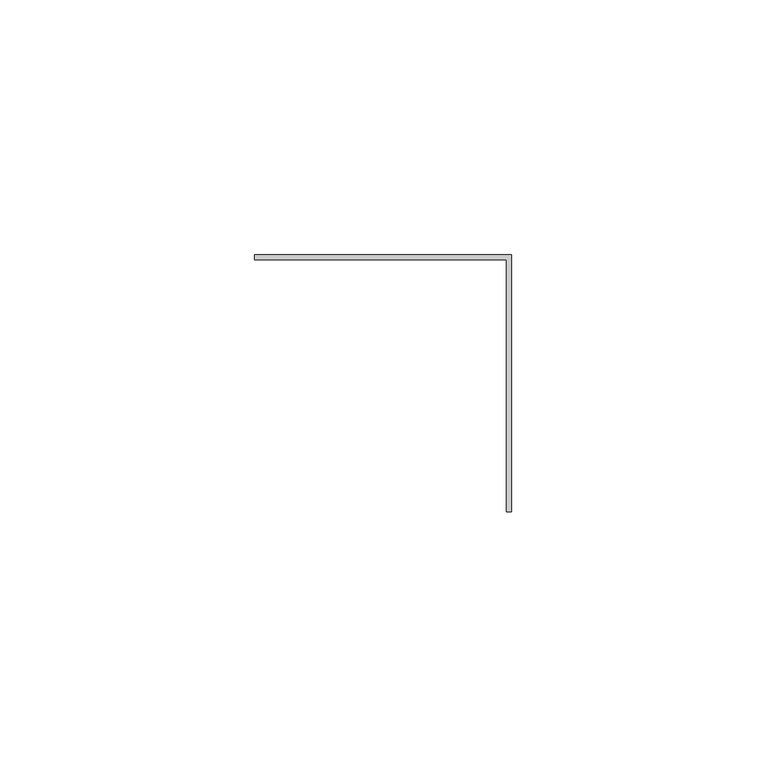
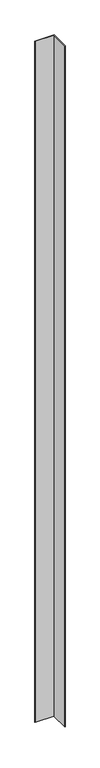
"""IFC4 building model written with IfcOpenShell, lengths in millimetres: member geometry, Meneau d'angle en L : ATELIERS 3S_Angle sortant."""

from ifc_helpers import new_model, si_unit, frame, origin, place, context, project, spatial, polyline, outline, extrude, source, transform, mapped, element, save


def member_5640643a(model_context):
    return source(origin(), model_context, "Body", "SweptSolid", [
        extrude(outline(polyline([(37.5, -12.0), (37.5, 37.5), (-12.0, 37.5), (-12.0, 38.5), (38.5, 38.5), (38.5, -12.0), (37.5, -12.0)])), frame((0.0, 0.0, -1900.0), z_axis=(0.0, 0.0, 1.0), x_axis=(1.0, 0.0, 0.0)), (0.0, 0.0, 1.0), 1900.0),
    ])


if __name__ == "__main__":
    model = new_model("IFC4")
    model_context = context("Model", 3, world=origin())
    ifc_project = project(units=[si_unit("LENGTHUNIT", "METRE", prefix="MILLI")], contexts=[model_context])
    site = spatial("IfcSite", under=ifc_project)
    building = spatial("IfcBuilding", under=site)
    placement = place(None, origin())
    member_shape = member_5640643a(model_context)
    element("IfcMember", 1, ObjectType="Meneau d'angle en L : ATELIERS 3S_Angle sortant", at=placement, inside=building, context=model_context, shape_type="MappedRepresentation", body=[
        mapped(member_shape, transform((0.0, 0.0, 0.0), x_axis=(1.0, 0.0, 0.0), y_axis=(0.0, 1.0, 0.0), z_axis=(0.0, 0.0, 1.0))),
    ])
    save(model, "model.ifc")
